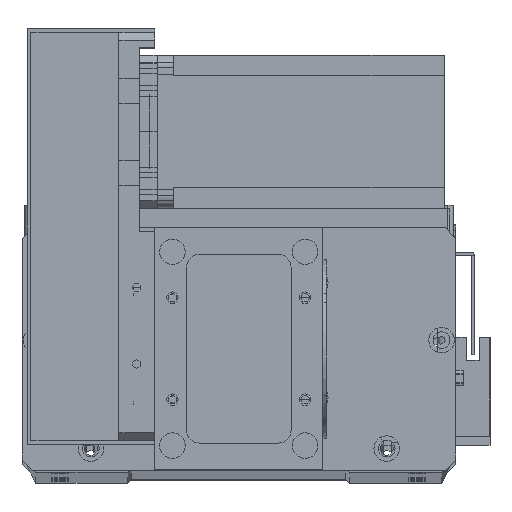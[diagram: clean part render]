
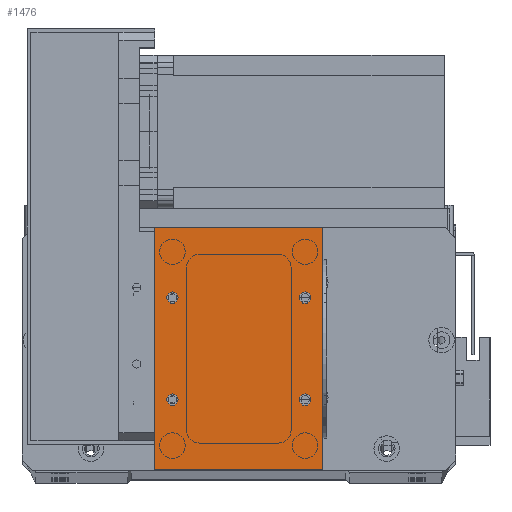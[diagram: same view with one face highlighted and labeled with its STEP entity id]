
A CAD part, top view. The second image highlights one B-rep face of the part: STEP entity #1476.
In plain terms, the highlighted planar face has unit normal (0, 0, 1).
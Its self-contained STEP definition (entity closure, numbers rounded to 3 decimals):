
#1 = VERTEX_POINT ( 'NONE', #33214 ) ;
#146 = DIRECTION ( 'NONE',  ( 0., 0., 1. ) ) ;
#613 = DIRECTION ( 'NONE',  ( 0., 0., 1. ) ) ;
#1464 = DIRECTION ( 'NONE',  ( 0., 0., 1. ) ) ;
#1476 = ADVANCED_FACE ( 'NONE', ( #13545, #27277, #19638, #12727, #5779 ), #5197, .F. ) ;
#1779 = EDGE_CURVE ( 'NONE', #7912, #21656, #10661, .T. ) ;
#2072 = LINE ( 'NONE', #9844, #8972 ) ;
#2246 = CARTESIAN_POINT ( 'NONE',  ( 59., 67.5, 2. ) ) ;
#2276 = EDGE_CURVE ( 'NONE', #16206, #15612, #23431, .T. ) ;
#2344 = DIRECTION ( 'NONE',  ( 1., 0., 0. ) ) ;
#2618 = LINE ( 'NONE', #22762, #28541 ) ;
#2698 = CARTESIAN_POINT ( 'NONE',  ( 61.25, 27.5, 2. ) ) ;
#2737 = ORIENTED_EDGE ( 'NONE', *, *, #2276, .T. ) ;
#2897 = EDGE_LOOP ( 'NONE', ( #26881, #11511 ) ) ;
#3710 = CARTESIAN_POINT ( 'NONE',  ( 7., 67.5, 2. ) ) ;
#4000 = VERTEX_POINT ( 'NONE', #29836 ) ;
#4349 = CIRCLE ( 'NONE', #12898, 2.25 ) ;
#4544 = AXIS2_PLACEMENT_3D ( 'NONE', #16191, #613, #18766 ) ;
#4552 = VERTEX_POINT ( 'NONE', #16603 ) ;
#4690 = EDGE_CURVE ( 'NONE', #8805, #16206, #2618, .T. ) ;
#4691 = EDGE_LOOP ( 'NONE', ( #18611, #8530, #30980, #2737 ) ) ;
#4739 = EDGE_LOOP ( 'NONE', ( #7123, #12079 ) ) ;
#4831 = DIRECTION ( 'NONE',  ( 1., 0., 0. ) ) ;
#4995 = VECTOR ( 'NONE', #6903, 1000. ) ;
#5197 = PLANE ( 'NONE',  #17077 ) ;
#5415 = CARTESIAN_POINT ( 'NONE',  ( 0., 0., 2. ) ) ;
#5779 = FACE_OUTER_BOUND ( 'NONE', #4691, .T. ) ;
#6303 = DIRECTION ( 'NONE',  ( 1., 0., 0. ) ) ;
#6755 = CARTESIAN_POINT ( 'NONE',  ( 7., 27.5, 2. ) ) ;
#6903 = DIRECTION ( 'NONE',  ( 0., -1., 0. ) ) ;
#7123 = ORIENTED_EDGE ( 'NONE', *, *, #12621, .F. ) ;
#7246 = DIRECTION ( 'NONE',  ( 0., 1., 0. ) ) ;
#7462 = ORIENTED_EDGE ( 'NONE', *, *, #18733, .F. ) ;
#7490 = CARTESIAN_POINT ( 'NONE',  ( 66., 95., 2. ) ) ;
#7689 = AXIS2_PLACEMENT_3D ( 'NONE', #17034, #1464, #19637 ) ;
#7912 = VERTEX_POINT ( 'NONE', #2698 ) ;
#8035 = DIRECTION ( 'NONE',  ( -1., 0., 0. ) ) ;
#8267 = CARTESIAN_POINT ( 'NONE',  ( 61.25, 67.5, 2. ) ) ;
#8530 = ORIENTED_EDGE ( 'NONE', *, *, #29648, .T. ) ;
#8607 = CIRCLE ( 'NONE', #4544, 2.25 ) ;
#8805 = VERTEX_POINT ( 'NONE', #14253 ) ;
#8972 = VECTOR ( 'NONE', #30549, 1000. ) ;
#9192 = AXIS2_PLACEMENT_3D ( 'NONE', #2246, #20405, #4831 ) ;
#9373 = EDGE_CURVE ( 'NONE', #15612, #29178, #12758, .T. ) ;
#9407 = DIRECTION ( 'NONE',  ( 1., 0., 0. ) ) ;
#9541 = CARTESIAN_POINT ( 'NONE',  ( 0., 0., 2. ) ) ;
#9844 = CARTESIAN_POINT ( 'NONE',  ( 0., 0., 2. ) ) ;
#10238 = EDGE_CURVE ( 'NONE', #16392, #4000, #32527, .T. ) ;
#10337 = EDGE_CURVE ( 'NONE', #13245, #4552, #8607, .T. ) ;
#10444 = CARTESIAN_POINT ( 'NONE',  ( 0., 0., 2. ) ) ;
#10626 = EDGE_CURVE ( 'NONE', #21656, #7912, #28831, .T. ) ;
#10661 = CIRCLE ( 'NONE', #7689, 2.25 ) ;
#10916 = AXIS2_PLACEMENT_3D ( 'NONE', #33369, #17907, #2344 ) ;
#11511 = ORIENTED_EDGE ( 'NONE', *, *, #10626, .F. ) ;
#12022 = CARTESIAN_POINT ( 'NONE',  ( 56.75, 27.5, 2. ) ) ;
#12079 = ORIENTED_EDGE ( 'NONE', *, *, #23442, .F. ) ;
#12335 = VERTEX_POINT ( 'NONE', #29424 ) ;
#12621 = EDGE_CURVE ( 'NONE', #12335, #1, #27074, .T. ) ;
#12727 = FACE_BOUND ( 'NONE', #4739, .T. ) ;
#12758 = LINE ( 'NONE', #9541, #4995 ) ;
#12898 = AXIS2_PLACEMENT_3D ( 'NONE', #6755, #24851, #9407 ) ;
#13245 = VERTEX_POINT ( 'NONE', #18422 ) ;
#13545 = FACE_BOUND ( 'NONE', #16943, .T. ) ;
#14185 = DIRECTION ( 'NONE',  ( 0., 0., 1. ) ) ;
#14253 = CARTESIAN_POINT ( 'NONE',  ( 66., 0., 2. ) ) ;
#14381 = AXIS2_PLACEMENT_3D ( 'NONE', #29646, #14185, #32249 ) ;
#15079 = CIRCLE ( 'NONE', #27478, 2.25 ) ;
#15612 = VERTEX_POINT ( 'NONE', #28872 ) ;
#15742 = CARTESIAN_POINT ( 'NONE',  ( 59., 67.5, 2. ) ) ;
#16191 = CARTESIAN_POINT ( 'NONE',  ( 7., 67.5, 2. ) ) ;
#16206 = VERTEX_POINT ( 'NONE', #7490 ) ;
#16392 = VERTEX_POINT ( 'NONE', #8267 ) ;
#16603 = CARTESIAN_POINT ( 'NONE',  ( 9.25, 67.5, 2. ) ) ;
#16943 = EDGE_LOOP ( 'NONE', ( #25084, #25432 ) ) ;
#17034 = CARTESIAN_POINT ( 'NONE',  ( 59., 27.5, 2. ) ) ;
#17077 = AXIS2_PLACEMENT_3D ( 'NONE', #5415, #23535, #8035 ) ;
#17907 = DIRECTION ( 'NONE',  ( 0., 0., 1. ) ) ;
#18331 = DIRECTION ( 'NONE',  ( 1., 0., 0. ) ) ;
#18422 = CARTESIAN_POINT ( 'NONE',  ( 4.75, 67.5, 2. ) ) ;
#18611 = ORIENTED_EDGE ( 'NONE', *, *, #9373, .T. ) ;
#18733 = EDGE_CURVE ( 'NONE', #4000, #16392, #24511, .T. ) ;
#18766 = DIRECTION ( 'NONE',  ( 1., 0., 0. ) ) ;
#19637 = DIRECTION ( 'NONE',  ( 1., 0., 0. ) ) ;
#19638 = FACE_BOUND ( 'NONE', #2897, .T. ) ;
#20405 = DIRECTION ( 'NONE',  ( 0., 0., 1. ) ) ;
#21656 = VERTEX_POINT ( 'NONE', #12022 ) ;
#21821 = DIRECTION ( 'NONE',  ( 0., 0., 1. ) ) ;
#22633 = VECTOR ( 'NONE', #29497, 1000. ) ;
#22762 = CARTESIAN_POINT ( 'NONE',  ( 66., 0., 2. ) ) ;
#23167 = EDGE_LOOP ( 'NONE', ( #32550, #7462 ) ) ;
#23431 = LINE ( 'NONE', #26869, #22633 ) ;
#23442 = EDGE_CURVE ( 'NONE', #1, #12335, #4349, .T. ) ;
#23535 = DIRECTION ( 'NONE',  ( 0., 0., -1. ) ) ;
#24511 = CIRCLE ( 'NONE', #9192, 2.25 ) ;
#24851 = DIRECTION ( 'NONE',  ( 0., 0., 1. ) ) ;
#25084 = ORIENTED_EDGE ( 'NONE', *, *, #27605, .F. ) ;
#25432 = ORIENTED_EDGE ( 'NONE', *, *, #10337, .F. ) ;
#25993 = AXIS2_PLACEMENT_3D ( 'NONE', #15742, #146, #18331 ) ;
#26869 = CARTESIAN_POINT ( 'NONE',  ( 0., 95., 2. ) ) ;
#26881 = ORIENTED_EDGE ( 'NONE', *, *, #1779, .F. ) ;
#27074 = CIRCLE ( 'NONE', #10916, 2.25 ) ;
#27277 = FACE_BOUND ( 'NONE', #23167, .T. ) ;
#27478 = AXIS2_PLACEMENT_3D ( 'NONE', #3710, #21821, #6303 ) ;
#27605 = EDGE_CURVE ( 'NONE', #4552, #13245, #15079, .T. ) ;
#28541 = VECTOR ( 'NONE', #7246, 1000. ) ;
#28831 = CIRCLE ( 'NONE', #14381, 2.25 ) ;
#28872 = CARTESIAN_POINT ( 'NONE',  ( 0., 95., 2. ) ) ;
#29178 = VERTEX_POINT ( 'NONE', #10444 ) ;
#29424 = CARTESIAN_POINT ( 'NONE',  ( 9.25, 27.5, 2. ) ) ;
#29497 = DIRECTION ( 'NONE',  ( -1., 0., 0. ) ) ;
#29646 = CARTESIAN_POINT ( 'NONE',  ( 59., 27.5, 2. ) ) ;
#29648 = EDGE_CURVE ( 'NONE', #29178, #8805, #2072, .T. ) ;
#29836 = CARTESIAN_POINT ( 'NONE',  ( 56.75, 67.5, 2. ) ) ;
#30549 = DIRECTION ( 'NONE',  ( 1., 0., 0. ) ) ;
#30980 = ORIENTED_EDGE ( 'NONE', *, *, #4690, .T. ) ;
#32249 = DIRECTION ( 'NONE',  ( 1., 0., 0. ) ) ;
#32527 = CIRCLE ( 'NONE', #25993, 2.25 ) ;
#32550 = ORIENTED_EDGE ( 'NONE', *, *, #10238, .F. ) ;
#33214 = CARTESIAN_POINT ( 'NONE',  ( 4.75, 27.5, 2. ) ) ;
#33369 = CARTESIAN_POINT ( 'NONE',  ( 7., 27.5, 2. ) ) ;
